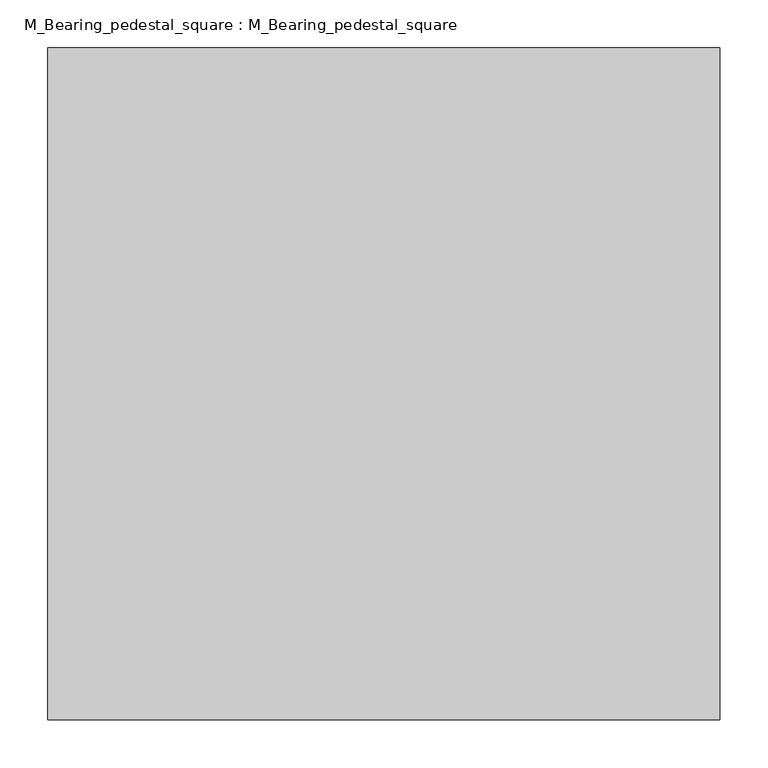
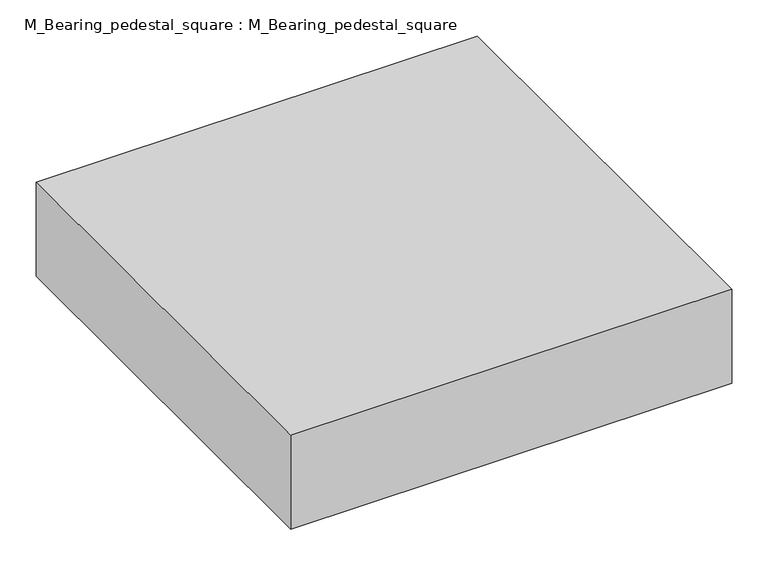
"""IFC4 building model written with IfcOpenShell, lengths in millimetres: proxy geometry, M_Bearing_pedestal_square : M_Bearing_pedestal_square."""

from ifc_helpers import new_model, si_unit, frame, origin, place, context, project, spatial, polyline, outline, extrude, source, transform, mapped, element, save


def m_bearing_pedestal_square_m_bearing_pedestal_square_95cf3319(model_context):
    return source(origin(), model_context, "Body", "SweptSolid", [
        extrude(outline(polyline([(-350.0, -350.0), (-350.0, 350.0), (350.0, 350.0), (350.0, -350.0), (-350.0, -350.0)])), frame((0.0, 0.0, -157.866828), z_axis=(0.0, 0.0, 1.0), x_axis=(1.0, 0.0, 0.0)), (0.0, 0.0, 1.0), 157.866828),
    ])


if __name__ == "__main__":
    model = new_model("IFC4")
    model_context = context("Model", 3, world=origin())
    ifc_project = project(units=[si_unit("LENGTHUNIT", "METRE", prefix="MILLI")], contexts=[model_context])
    site = spatial("IfcSite", under=ifc_project)
    building = spatial("IfcBuilding", under=site)
    placement = place(None, origin())
    m_bearing_pedestal_square_m_bearing_pedestal_square_shape = m_bearing_pedestal_square_m_bearing_pedestal_square_95cf3319(model_context)
    element("IfcBuildingElementProxy", 1, Name="M_Bearing_pedestal_square : M_Bearing_pedestal_square", ObjectType="M_Bearing_pedestal_square : M_Bearing_pedestal_square", at=placement, inside=building, context=model_context, shape_type="MappedRepresentation", body=[
        mapped(m_bearing_pedestal_square_m_bearing_pedestal_square_shape, transform((0.0, 0.0, 0.0), x_axis=(1.0, 0.0, 0.0), y_axis=(0.0, 1.0, 0.0), z_axis=(0.0, 0.0, 1.0))),
    ])
    save(model, "model.ifc")
